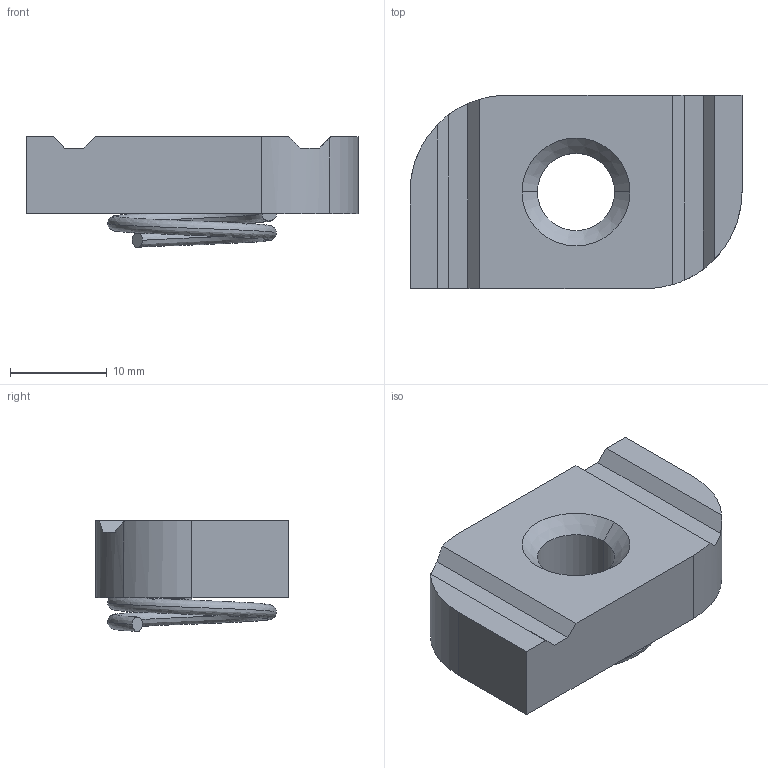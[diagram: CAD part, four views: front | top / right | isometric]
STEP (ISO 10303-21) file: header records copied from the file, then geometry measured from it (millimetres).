
FILE_DESCRIPTION(('TurboCAD Mac Pro'),'Build 980');
FILE_NAME('P4007.stp',' ',(''),(''),'ACIS Interop','IMSI','TurboCAD Mac Pro BY IMSI, INCORPORATED');
FILE_SCHEMA(('automotive_design'));
Length unit declared in the file: inch
Products named in the file (1): 1
Bounding box: 34.4 x 20 x 11.5 mm (x, y, z)
Volume: 4697.8 mm3; surface area: 2471.1 mm2
Topology: 1 solids, 1 shells, 26 faces, 65 edges, 42 vertices
Faces by surface type: plane 16, cylinder 6, bspline 2, cone 2
Entity records: 2076 total; most frequent: CARTESIAN_POINT 1204, DIRECTION 137, ORIENTED_EDGE 130, EDGE_CURVE 65, AXIS2_PLACEMENT_3D 50, VERTEX_POINT 42, LINE 37, VECTOR 37
